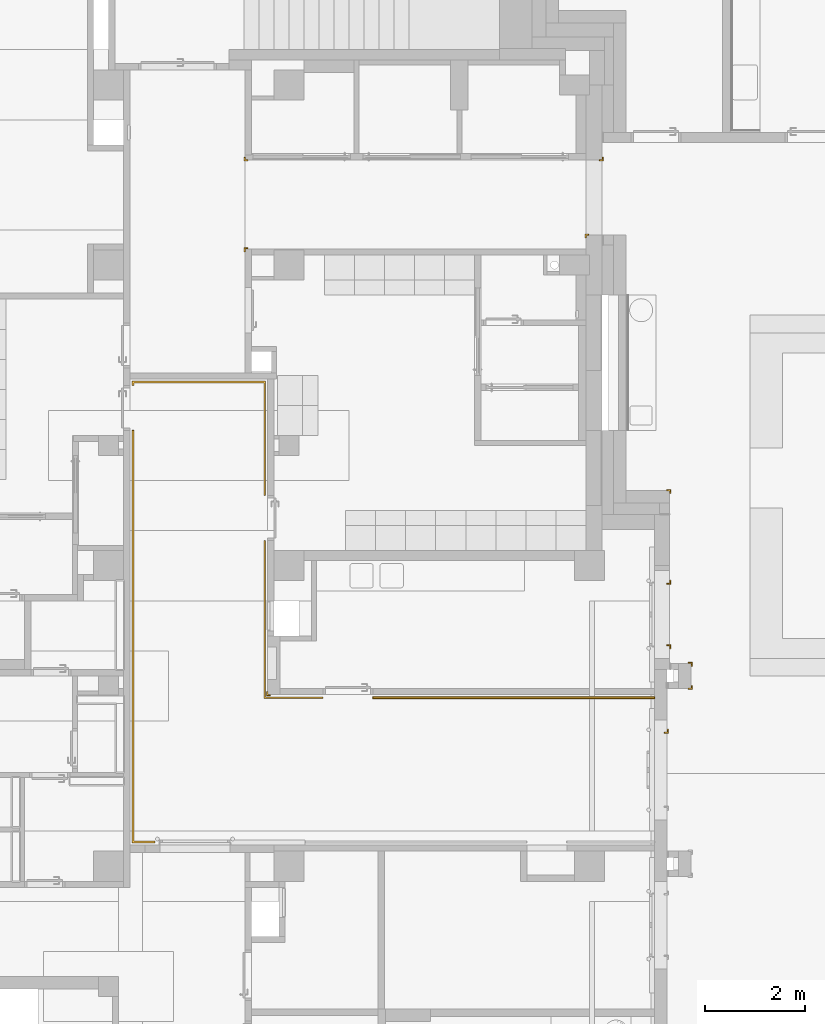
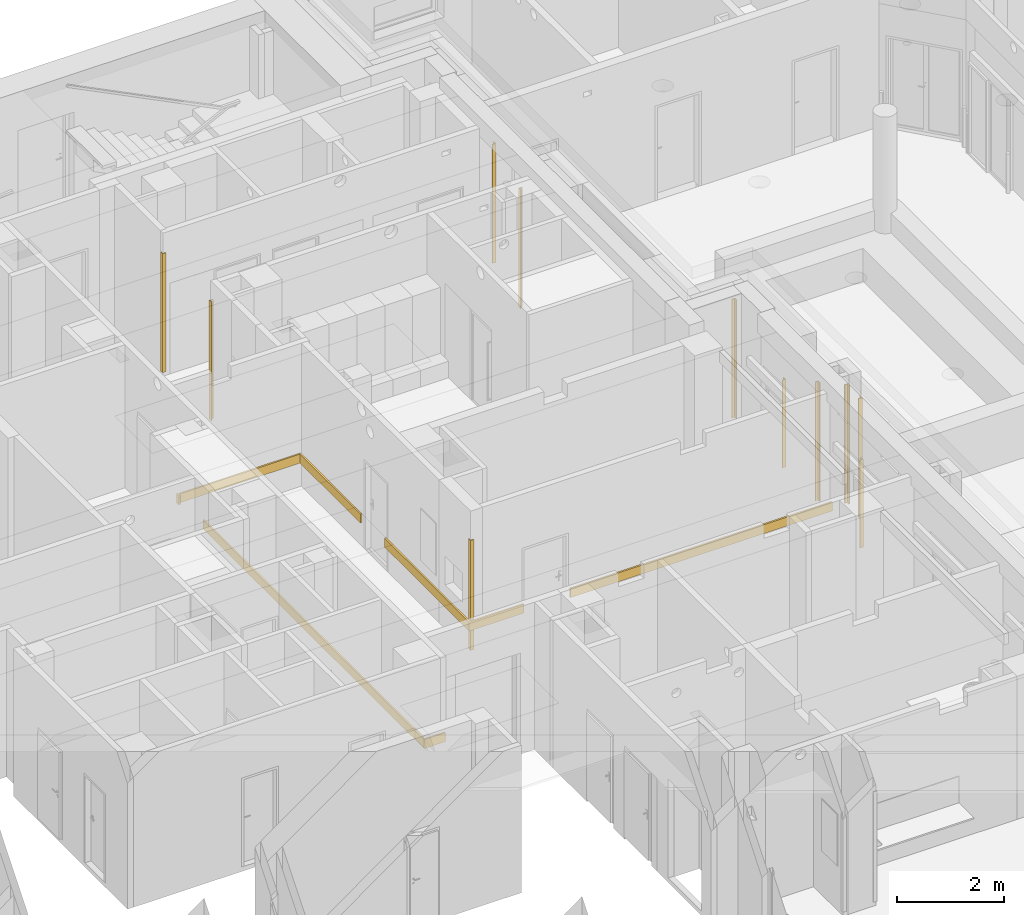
# One storey, part 134 of 140: 15 railings.
"""IFC4 building model written with IfcOpenShell, lengths in metres."""

from ifc_helpers import new_model, entity, si_unit, converted_unit, derived_unit, frame, origin, place, context, subcontext, project, spatial, faceted_brep, element, save


model = new_model("IFC4")

# Units and contexts
model_context = context("Model", 3, precision=1e-05, world=origin())
body_context = subcontext(model_context, "Body", "Model", "MODEL_VIEW")
ifc_project = project(units=[si_unit("LENGTHUNIT", "METRE"), si_unit("AREAUNIT", "SQUARE_METRE"), si_unit("VOLUMEUNIT", "CUBIC_METRE"), si_unit("MASSUNIT", "GRAM", prefix="KILO"), converted_unit("PLANEANGLEUNIT", "DEGREE", entity("IfcPlaneAngleMeasure", 0.0174532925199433), si_unit("PLANEANGLEUNIT", "RADIAN"), dimensions=[0, 0, 0, 0, 0, 0, 0]), derived_unit("THERMALTRANSMITTANCEUNIT", [(si_unit("POWERUNIT", "WATT"), 1), (si_unit("THERMODYNAMICTEMPERATUREUNIT", "KELVIN"), -1), (si_unit("LENGTHUNIT", "METRE"), -2)]), derived_unit("VOLUMETRICFLOWRATEUNIT", [(si_unit("LENGTHUNIT", "METRE"), 3), (converted_unit("TIMEUNIT", "hour", entity("IfcTimeMeasure", 3600.0), si_unit("TIMEUNIT", "SECOND"), dimensions=[0, 0, 1, 0, 0, 0, 0]), -1), (si_unit("LENGTHUNIT", "METRE"), -1)])], contexts=[model_context])

# Site, building, storey
site_placement = place(None, origin())
site = spatial("IfcSite", under=ifc_project, at=site_placement, Name="3. ASŘ", CompositionType="ELEMENT")
building_placement = place(site_placement, origin())
building = spatial("IfcBuilding", under=site, at=building_placement, Name="Pavilon C", CompositionType="ELEMENT")
storey_placement = place(building_placement, origin())
storey = spatial("IfcBuildingStorey", under=building, at=storey_placement, Name="Půdorys 1.NP", CompositionType="ELEMENT", Elevation=0.0)

# Railings
railing_1_placement = place(storey_placement, frame((43.505, 16.605, 0.1)))
element("IfcRailing", 1, at=railing_1_placement, inside=storey, Name="OCHRANA ROHŮ", PredefinedType="USERDEFINED", context=body_context, shape_type="Brep", body=[
    faceted_brep([(0.076, 0.0, 2.5), (0.076, 0.02, 2.5), (0.076, 0.02, 4.54747350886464e-16), (0.076, 0.0, 0.0), (0.0, 0.0, 2.5), (0.0, 0.076, 2.5), (0.02, 0.076, 2.5), (0.02, 0.02, 2.5), (0.02, 0.02, 4.54747350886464e-16), (0.02, 0.076, 4.54747350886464e-16), (0.0, 0.076, 0.0), (0.0, 0.0, 0.0)], [[[0, 1, 2, 3]], [[0, 4, 5, 6, 7, 1]], [[1, 7, 8, 2]], [[2, 8, 9, 10, 11, 3]], [[3, 11, 4, 0]], [[5, 10, 9, 6]], [[7, 6, 9, 8]], [[11, 10, 5, 4]]], orient=[[False], [False], [False], [False], [False], [False], [False], [False]]),
])
railing_2_placement = place(storey_placement, frame((51.924, 16.73, 0.1)))
element("IfcRailing", 2, at=railing_2_placement, inside=storey, Name="OCHRANA ROHŮ", PredefinedType="USERDEFINED", context=body_context, shape_type="Brep", body=[
    faceted_brep([(0.076, 0.076, 2.7), (0.056, 0.076, 2.7), (0.056, 0.076, 4.54747350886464e-16), (0.076, 0.076, 0.0), (0.076, 0.0, 2.7), (0.0, 0.0, 2.7), (0.0, 0.02, 2.7), (0.056, 0.02, 2.7), (0.056, 0.02, 4.54747350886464e-16), (0.0, 0.02, 4.54747350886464e-16), (0.0, 0.0, 0.0), (0.076, 0.0, 0.0)], [[[0, 1, 2, 3]], [[0, 4, 5, 6, 7, 1]], [[1, 7, 8, 2]], [[2, 8, 9, 10, 11, 3]], [[3, 11, 4, 0]], [[5, 10, 9, 6]], [[7, 6, 9, 8]], [[11, 10, 5, 4]]], orient=[[False], [False], [False], [False], [False], [False], [False], [False]]),
])
railing_3_placement = place(storey_placement, frame((51.924, 17.194, 0.1)))
element("IfcRailing", 3, at=railing_3_placement, inside=storey, Name="OCHRANA ROHŮ", PredefinedType="USERDEFINED", context=body_context, shape_type="Brep", body=[
    faceted_brep([(0.0, 0.076, 2.7), (0.0, 0.056, 2.7), (0.0, 0.056, 4.54747350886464e-16), (0.0, 0.076, 0.0), (0.076, 0.076, 2.7), (0.076, 0.0, 2.7), (0.056, 0.0, 2.7), (0.056, 0.056, 2.7), (0.056, 0.056, 4.54747350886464e-16), (0.056, 0.0, 4.54747350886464e-16), (0.076, 0.0, 0.0), (0.076, 0.076, 0.0)], [[[0, 1, 2, 3]], [[0, 4, 5, 6, 7, 1]], [[1, 7, 8, 2]], [[2, 8, 9, 10, 11, 3]], [[3, 11, 4, 0]], [[5, 10, 9, 6]], [[7, 6, 9, 8]], [[11, 10, 5, 4]]], orient=[[False], [False], [False], [False], [False], [False], [False], [False]]),
])
railing_4_placement = place(storey_placement, frame((51.444, 15.855, 0.1)))
element("IfcRailing", 4, at=railing_4_placement, inside=storey, Name="OCHRANA ROHŮ", PredefinedType="USERDEFINED", context=body_context, shape_type="Brep", body=[
    faceted_brep([(0.0, 0.02, 2.0), (0.0, 0.0, 2.0), (0.0, 0.0, 3.41060513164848e-16), (0.0, 0.02, -1.13686837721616e-16), (0.056, 0.02, 2.0), (0.056, 0.076, 2.0), (0.076, 0.076, 2.0), (0.076, 0.0, 2.0), (0.076, 0.0, 3.41060513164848e-16), (0.076, 0.076, 3.41060513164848e-16), (0.056, 0.076, -1.13686837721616e-16), (0.056, 0.02, -1.13686837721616e-16)], [[[0, 1, 2, 3]], [[0, 4, 5, 6, 7, 1]], [[1, 7, 8, 2]], [[2, 8, 9, 10, 11, 3]], [[3, 11, 4, 0]], [[5, 10, 9, 6]], [[7, 6, 9, 8]], [[11, 10, 5, 4]]], orient=[[False], [False], [False], [False], [False], [False], [False], [False]]),
])
railing_5_placement = place(storey_placement, frame((51.494, 18.83, 0.1)))
element("IfcRailing", 5, at=railing_5_placement, inside=storey, Name="OCHRANA ROHŮ", PredefinedType="USERDEFINED", context=body_context, shape_type="Brep", body=[
    faceted_brep([(0.0, 0.0, 2.0), (0.0, 0.0, -1.13686837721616e-16), (0.0, 0.02, 3.41060513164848e-16), (0.0, 0.02, 2.0), (0.056, 0.02, 2.0), (0.056, 0.076, 2.0), (0.076, 0.076, 2.0), (0.076, 0.0, 2.0), (0.056, 0.02, 3.41060513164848e-16), (0.076, 0.0, -1.13686837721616e-16), (0.076, 0.076, -1.13686837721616e-16), (0.056, 0.076, 3.41060513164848e-16)], [[[0, 1, 2, 3]], [[0, 3, 4, 5, 6, 7]], [[3, 2, 8, 4]], [[2, 1, 9, 10, 11, 8]], [[1, 0, 7, 9]], [[6, 5, 11, 10]], [[4, 8, 11, 5]], [[9, 7, 6, 10]]], orient=[[False], [False], [False], [False], [False], [False], [False], [False]]),
])
for number, where in (
    (6, (51.494, 17.544, 0.1)),
    (7, (51.494, 20.644, 0.1)),
):
    element("IfcRailing", number, at=place(storey_placement, frame(where)), inside=storey, Name="OCHRANA ROHŮ", PredefinedType="USERDEFINED", context=body_context, shape_type="Brep", body=[
        faceted_brep([(0.0, 0.076, 2.7), (0.0, 0.056, 2.7), (0.0, 0.056, 4.54747350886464e-16), (0.0, 0.076, 0.0), (0.076, 0.076, 2.7), (0.076, 0.0, 2.7), (0.056, 0.0, 2.7), (0.056, 0.056, 2.7), (0.056, 0.056, 4.54747350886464e-16), (0.056, 0.0, 4.54747350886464e-16), (0.076, 0.0, 0.0), (0.076, 0.076, 0.0)], [[[0, 1, 2, 3]], [[0, 4, 5, 6, 7, 1]], [[1, 7, 8, 2]], [[2, 8, 9, 10, 11, 3]], [[3, 11, 4, 0]], [[5, 10, 9, 6]], [[7, 6, 9, 8]], [[11, 10, 5, 4]]], orient=[[False], [False], [False], [False], [False], [False], [False], [False]]),
    ])
railing_6_placement = place(storey_placement, frame((50.144, 27.28, 0.1)))
element("IfcRailing", 8, at=railing_6_placement, inside=storey, Name="OCHRANA ROHŮ", PredefinedType="USERDEFINED", context=body_context, shape_type="Brep", body=[
    faceted_brep([(0.0, 0.02, 2.7), (0.0, 0.0, 2.7), (0.0, 0.0, 4.54747350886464e-16), (0.0, 0.02, 0.0), (0.056, 0.02, 2.7), (0.056, 0.076, 2.7), (0.076, 0.076, 2.7), (0.076, 0.0, 2.7), (0.076, 0.0, 4.54747350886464e-16), (0.076, 0.076, 4.54747350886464e-16), (0.056, 0.076, 0.0), (0.056, 0.02, 0.0)], [[[0, 1, 2, 3]], [[0, 4, 5, 6, 7, 1]], [[1, 7, 8, 2]], [[2, 8, 9, 10, 11, 3]], [[3, 11, 4, 0]], [[5, 10, 9, 6]], [[7, 6, 9, 8]], [[11, 10, 5, 4]]], orient=[[False], [False], [False], [False], [False], [False], [False], [False]]),
])
railing_7_placement = place(storey_placement, frame((40.8175, 20.6, 0.597)))
element("IfcRailing", 9, at=railing_7_placement, inside=storey, Name="NÁRAZOVÉ SVODIDLO", PredefinedType="USERDEFINED", context=body_context, shape_type="Brep", body=[
    faceted_brep([(2.63, 0.0, 0.203), (2.665, 0.0, 0.203), (2.665, 0.0, 0.0), (2.63, 0.0, 0.0), (2.63, 2.2475, 0.203), (0.035, 2.2475, 0.203), (0.035, 2.2, 0.203), (0.0, 2.2, 0.203), (0.0, 2.2825, 0.203), (2.665, 2.2825, 0.203), (2.665, 2.2825, 0.0), (0.0, 2.2825, 0.0), (0.0, 2.2, 0.0), (0.035, 2.2, 0.0), (0.035, 2.2475, 0.0), (2.63, 2.2475, 0.0)], [[[0, 1, 2, 3]], [[0, 4, 5, 6, 7, 8, 9, 1]], [[1, 9, 10, 2]], [[2, 10, 11, 12, 13, 14, 15, 3]], [[3, 15, 4, 0]], [[9, 8, 11, 10]], [[15, 14, 5, 4]], [[6, 13, 12, 7]], [[8, 7, 12, 11]], [[14, 13, 6, 5]]], orient=[[False], [False], [False], [False], [False], [False], [False], [False], [False], [False]]),
])
railing_8_placement = place(storey_placement, frame((43.4475, 16.5475, 0.597)))
element("IfcRailing", 10, at=railing_8_placement, inside=storey, Name="NÁRAZOVÉ SVODIDLO", PredefinedType="USERDEFINED", context=body_context, shape_type="Brep", body=[
    faceted_brep([(1.1775, 0.0, 0.203), (1.1775, 0.035, 0.203), (1.1775, 0.035, 0.0), (1.1775, 0.0, 0.0), (0.0, 0.0, 0.203), (0.0, 3.1525, 0.203), (0.035, 3.1525, 0.203), (0.035, 0.035, 0.203), (0.035, 0.035, 0.0), (0.035, 3.1525, 0.0), (0.0, 3.1525, 0.0), (0.0, 0.0, 0.0)], [[[0, 1, 2, 3]], [[0, 4, 5, 6, 7, 1]], [[1, 7, 8, 2]], [[2, 8, 9, 10, 11, 3]], [[3, 11, 4, 0]], [[5, 10, 9, 6]], [[7, 6, 9, 8]], [[11, 10, 5, 4]]], orient=[[False], [False], [False], [False], [False], [False], [False], [False]]),
])
railing_9_placement = place(storey_placement, frame((45.625, 16.5475, 0.597)))
element("IfcRailing", 11, at=railing_9_placement, inside=storey, Name="NÁRAZOVÉ SVODIDLO", PredefinedType="USERDEFINED", context=body_context, shape_type="Brep", body=[
    faceted_brep([(0.0, 0.035, 0.203), (0.0, 0.0, 0.203), (0.0, 0.0, 0.0), (0.0, 0.035, 0.0), (5.625, 0.035, 0.203), (5.625, 0.035, 0.0), (5.625, 0.0, 0.0), (5.625, 0.0, 0.203)], [[[0, 1, 2, 3]], [[4, 5, 6, 7]], [[0, 4, 7, 1]], [[1, 7, 6, 2]], [[2, 6, 5, 3]], [[3, 5, 4, 0]]], orient=[[False], [False], [False], [False], [False], [False]]),
])
for number, where in (
    (12, (49.86, 25.744, 0.1)),
    (13, (43.055, 25.469, 0.1)),
):
    element("IfcRailing", number, at=place(storey_placement, frame(where)), inside=storey, Name="OCHRANA ROHŮ", PredefinedType="USERDEFINED", context=body_context, shape_type="Brep", body=[
        faceted_brep([(0.076, 0.056, 2.7), (0.076, 0.076, 2.7), (0.076, 0.076, 4.54747350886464e-16), (0.076, 0.056, 0.0), (0.02, 0.056, 2.7), (0.02, 0.0, 2.7), (0.0, 0.0, 2.7), (0.0, 0.076, 2.7), (0.0, 0.076, 4.54747350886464e-16), (0.0, 0.0, 4.54747350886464e-16), (0.02, 0.0, 0.0), (0.02, 0.056, 0.0)], [[[0, 1, 2, 3]], [[0, 4, 5, 6, 7, 1]], [[1, 7, 8, 2]], [[2, 8, 9, 10, 11, 3]], [[3, 11, 4, 0]], [[5, 10, 9, 6]], [[7, 6, 9, 8]], [[11, 10, 5, 4]]], orient=[[False], [False], [False], [False], [False], [False], [False], [False]]),
    ])
railing_10_placement = place(storey_placement, frame((43.055, 27.28, 0.1)))
element("IfcRailing", 14, at=railing_10_placement, inside=storey, Name="OCHRANA ROHŮ", PredefinedType="USERDEFINED", context=body_context, shape_type="Brep", body=[
    faceted_brep([(0.02, 0.076, 2.7), (0.0, 0.076, 2.7), (0.0, 0.076, 4.54747350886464e-16), (0.02, 0.076, 0.0), (0.02, 0.02, 2.7), (0.0759999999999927, 0.02, 2.7), (0.0759999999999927, 0.0, 2.7), (0.0, 0.0, 2.7), (0.0, 0.0, 4.54747350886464e-16), (0.0759999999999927, 0.0, 4.54747350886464e-16), (0.0759999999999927, 0.02, 0.0), (0.02, 0.02, 0.0)], [[[0, 1, 2, 3]], [[0, 4, 5, 6, 7, 1]], [[1, 7, 8, 2]], [[2, 8, 9, 10, 11, 3]], [[3, 11, 4, 0]], [[5, 10, 9, 6]], [[7, 6, 9, 8]], [[11, 10, 5, 4]]], orient=[[False], [False], [False], [False], [False], [False], [False], [False]]),
])
railing_11_placement = place(storey_placement, frame((40.8175, 13.6675, 0.597)))
element("IfcRailing", 15, at=railing_11_placement, inside=storey, Name="NÁRAZOVÉ SVODIDLO", PredefinedType="USERDEFINED", context=body_context, shape_type="Brep", body=[
    faceted_brep([(0.035, 8.2325, 0.203), (0.0, 8.2325, 0.203), (0.0, 8.2325, 0.0), (0.035, 8.2325, 0.0), (0.035, 0.0350000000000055, 0.203), (0.4575, 0.0350000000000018, 0.203), (0.4575, 1.81898940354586e-15, 0.203), (0.0, 5.45696821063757e-15, 0.203), (0.0, 5.45696821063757e-15, 0.0), (0.4575, 1.81898940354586e-15, 0.0), (0.4575, 0.0350000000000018, 0.0), (0.035, 0.0350000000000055, 0.0)], [[[0, 1, 2, 3]], [[0, 4, 5, 6, 7, 1]], [[1, 7, 8, 2]], [[2, 8, 9, 10, 11, 3]], [[3, 11, 4, 0]], [[5, 10, 9, 6]], [[7, 6, 9, 8]], [[11, 10, 5, 4]]], orient=[[False], [False], [False], [False], [False], [False], [False], [False]]),
])

save(model, "model.ifc")
